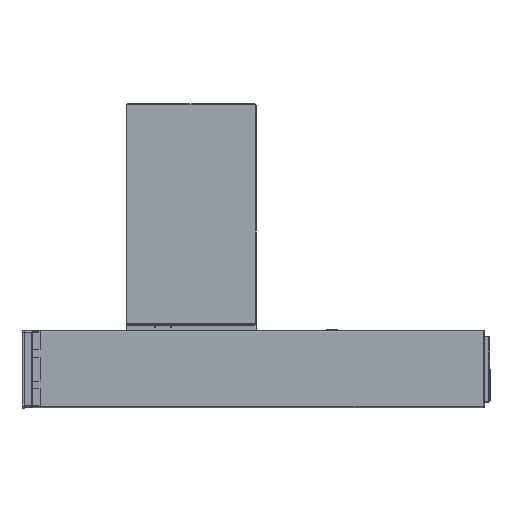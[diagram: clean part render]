
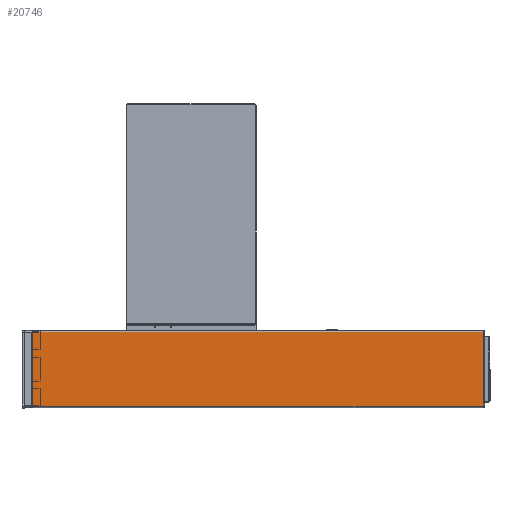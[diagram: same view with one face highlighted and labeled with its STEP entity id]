
A CAD part, left-side view. The second image highlights one B-rep face of the part: STEP entity #20746.
In plain terms, the highlighted planar face has unit normal (-1, 0, 0).
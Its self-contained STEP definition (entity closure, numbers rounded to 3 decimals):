
#214 = VERTEX_POINT ( 'NONE', #63579 ) ;
#559 = CARTESIAN_POINT ( 'NONE',  ( 0., 870., -71. ) ) ;
#6082 = EDGE_CURVE ( 'NONE', #16799, #47336, #10722, .T. ) ;
#6577 = DIRECTION ( 'NONE',  ( 0., 1., 0. ) ) ;
#6780 = CARTESIAN_POINT ( 'NONE',  ( 0., 870., 70.999 ) ) ;
#6946 = VECTOR ( 'NONE', #16008, 1000. ) ;
#9518 = LINE ( 'NONE', #34156, #56540 ) ;
#10040 = ORIENTED_EDGE ( 'NONE', *, *, #6082, .F. ) ;
#10550 = ORIENTED_EDGE ( 'NONE', *, *, #12746, .F. ) ;
#10722 = LINE ( 'NONE', #72852, #6946 ) ;
#12425 = CARTESIAN_POINT ( 'NONE',  ( 0., 3., -70.999 ) ) ;
#12746 = EDGE_CURVE ( 'NONE', #34266, #16799, #50508, .T. ) ;
#14572 = CARTESIAN_POINT ( 'NONE',  ( 0., 3., 71. ) ) ;
#15602 = CARTESIAN_POINT ( 'NONE',  ( 0., 870., -74. ) ) ;
#16008 = DIRECTION ( 'NONE',  ( 0., -1., 0. ) ) ;
#16799 = VERTEX_POINT ( 'NONE', #63703 ) ;
#18528 = VECTOR ( 'NONE', #36701, 1000. ) ;
#20331 = CARTESIAN_POINT ( 'NONE',  ( 0., 3., -70.999 ) ) ;
#20746 = ADVANCED_FACE ( 'NONE', ( #57585 ), #22476, .F. ) ;
#20944 = AXIS2_PLACEMENT_3D ( 'NONE', #15602, #53082, #22086 ) ;
#22086 = DIRECTION ( 'NONE',  ( 0., 0., -1. ) ) ;
#22476 = PLANE ( 'NONE',  #20944 ) ;
#22818 = VERTEX_POINT ( 'NONE', #12425 ) ;
#25419 = LINE ( 'NONE', #6780, #78700 ) ;
#25841 = CARTESIAN_POINT ( 'NONE',  ( 0., 3.001, -74. ) ) ;
#30845 = LINE ( 'NONE', #67107, #47251 ) ;
#31361 = DIRECTION ( 'NONE',  ( 0., 0., -1. ) ) ;
#32849 = VECTOR ( 'NONE', #31361, 1000. ) ;
#34156 = CARTESIAN_POINT ( 'NONE',  ( 0., 3., -74. ) ) ;
#34266 = VERTEX_POINT ( 'NONE', #559 ) ;
#34790 = VERTEX_POINT ( 'NONE', #40402 ) ;
#36494 = DIRECTION ( 'NONE',  ( 0., 1., 0. ) ) ;
#36701 = DIRECTION ( 'NONE',  ( 0., 0., -1. ) ) ;
#40402 = CARTESIAN_POINT ( 'NONE',  ( 0., 3., 70.999 ) ) ;
#40642 = CARTESIAN_POINT ( 'NONE',  ( 0., 3., -71. ) ) ;
#42976 = EDGE_CURVE ( 'NONE', #214, #47975, #54035, .T. ) ;
#43203 = EDGE_LOOP ( 'NONE', ( #43695, #68037, #60107, #59043, #60276, #10040, #10550, #48762 ) ) ;
#43695 = ORIENTED_EDGE ( 'NONE', *, *, #55542, .F. ) ;
#44445 = DIRECTION ( 'NONE',  ( 0., 0., 1. ) ) ;
#45683 = EDGE_CURVE ( 'NONE', #64568, #34266, #30845, .T. ) ;
#47251 = VECTOR ( 'NONE', #36494, 1000. ) ;
#47336 = VERTEX_POINT ( 'NONE', #14572 ) ;
#47975 = VERTEX_POINT ( 'NONE', #20331 ) ;
#48762 = ORIENTED_EDGE ( 'NONE', *, *, #45683, .F. ) ;
#49369 = CARTESIAN_POINT ( 'NONE',  ( 0., 870., -70.999 ) ) ;
#50508 = LINE ( 'NONE', #75077, #66909 ) ;
#53082 = DIRECTION ( 'NONE',  ( 1., 0., 0. ) ) ;
#54035 = LINE ( 'NONE', #78616, #32849 ) ;
#54409 = DIRECTION ( 'NONE',  ( 0., 1., 0. ) ) ;
#55404 = LINE ( 'NONE', #49369, #70716 ) ;
#55542 = EDGE_CURVE ( 'NONE', #22818, #64568, #68922, .T. ) ;
#56540 = VECTOR ( 'NONE', #58743, 1000. ) ;
#57585 = FACE_OUTER_BOUND ( 'NONE', #43203, .T. ) ;
#58743 = DIRECTION ( 'NONE',  ( 0., 0., 1. ) ) ;
#59043 = ORIENTED_EDGE ( 'NONE', *, *, #74100, .T. ) ;
#60107 = ORIENTED_EDGE ( 'NONE', *, *, #42976, .F. ) ;
#60134 = EDGE_CURVE ( 'NONE', #34790, #47336, #9518, .T. ) ;
#60276 = ORIENTED_EDGE ( 'NONE', *, *, #60134, .T. ) ;
#63579 = CARTESIAN_POINT ( 'NONE',  ( 0., 3., 70.999 ) ) ;
#63703 = CARTESIAN_POINT ( 'NONE',  ( 0., 870., 71. ) ) ;
#64568 = VERTEX_POINT ( 'NONE', #40642 ) ;
#66909 = VECTOR ( 'NONE', #44445, 1000. ) ;
#67107 = CARTESIAN_POINT ( 'NONE',  ( 0., 1.5, -71. ) ) ;
#68037 = ORIENTED_EDGE ( 'NONE', *, *, #76168, .F. ) ;
#68922 = LINE ( 'NONE', #25841, #18528 ) ;
#70716 = VECTOR ( 'NONE', #6577, 1000. ) ;
#72852 = CARTESIAN_POINT ( 'NONE',  ( 0., 870., 71. ) ) ;
#74100 = EDGE_CURVE ( 'NONE', #214, #34790, #25419, .T. ) ;
#75077 = CARTESIAN_POINT ( 'NONE',  ( 0., 870., -74. ) ) ;
#76168 = EDGE_CURVE ( 'NONE', #47975, #22818, #55404, .T. ) ;
#78616 = CARTESIAN_POINT ( 'NONE',  ( 0., 3., 73.585 ) ) ;
#78700 = VECTOR ( 'NONE', #54409, 1000. ) ;
